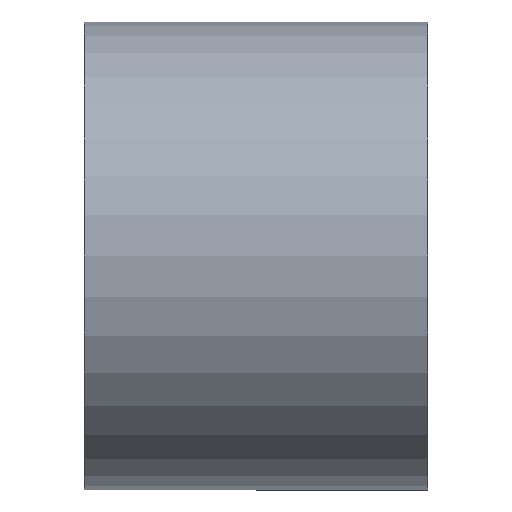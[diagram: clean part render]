
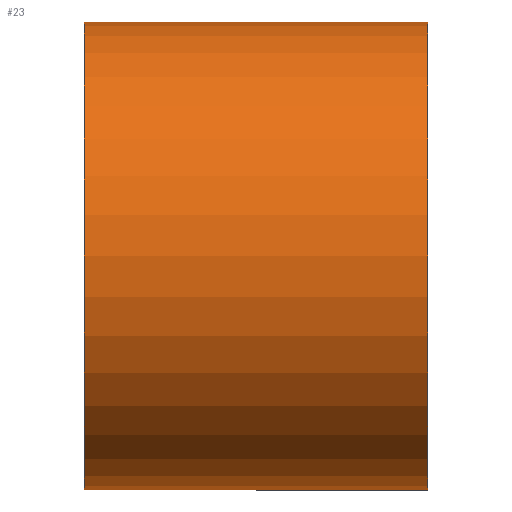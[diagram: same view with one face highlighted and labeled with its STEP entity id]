
A CAD part, front view. The second image highlights one B-rep face of the part: STEP entity #23.
In plain terms, the highlighted cylindrical face has radius 37.5 mm (diameter 75 mm), a partial arc.
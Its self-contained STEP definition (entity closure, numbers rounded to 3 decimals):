
#12 = CARTESIAN_POINT ( 'NONE',  ( 27.5, 0., 37.5 ) ) ;
#23 = ADVANCED_FACE ( 'NONE', ( #332 ), #330, .T. ) ;
#42 = DIRECTION ( 'NONE',  ( -1., 0., 0. ) ) ;
#68 = CIRCLE ( 'NONE', #468, 37.5 ) ;
#73 = VERTEX_POINT ( 'NONE', #572 ) ;
#89 = EDGE_CURVE ( 'NONE', #723, #535, #294, .T. ) ;
#98 = CARTESIAN_POINT ( 'NONE',  ( -27.5, 0., 37.5 ) ) ;
#120 = DIRECTION ( 'NONE',  ( -1., 0., 0. ) ) ;
#128 = CARTESIAN_POINT ( 'NONE',  ( 0., 0., 0. ) ) ;
#137 = ORIENTED_EDGE ( 'NONE', *, *, #611, .F. ) ;
#146 = VECTOR ( 'NONE', #120, 1000. ) ;
#153 = CARTESIAN_POINT ( 'NONE',  ( -27.5, 0., 0. ) ) ;
#209 = VECTOR ( 'NONE', #42, 1000. ) ;
#251 = CIRCLE ( 'NONE', #435, 37.5 ) ;
#259 = EDGE_CURVE ( 'NONE', #698, #535, #251, .T. ) ;
#294 = LINE ( 'NONE', #516, #146 ) ;
#307 = DIRECTION ( 'NONE',  ( -1., 0., 0. ) ) ;
#317 = CARTESIAN_POINT ( 'NONE',  ( 27.5, 0., 0. ) ) ;
#330 = CYLINDRICAL_SURFACE ( 'NONE', #649, 37.5 ) ;
#332 = FACE_OUTER_BOUND ( 'NONE', #644, .T. ) ;
#347 = CARTESIAN_POINT ( 'NONE',  ( -27.5, 0., -37.5 ) ) ;
#364 = ORIENTED_EDGE ( 'NONE', *, *, #508, .T. ) ;
#380 = DIRECTION ( 'NONE',  ( -1., 0., 0. ) ) ;
#422 = DIRECTION ( 'NONE',  ( 0., 0., 1. ) ) ;
#435 = AXIS2_PLACEMENT_3D ( 'NONE', #153, #307, #597 ) ;
#468 = AXIS2_PLACEMENT_3D ( 'NONE', #317, #380, #422 ) ;
#482 = CARTESIAN_POINT ( 'NONE',  ( 0., 0., -37.5 ) ) ;
#508 = EDGE_CURVE ( 'NONE', #73, #723, #68, .T. ) ;
#516 = CARTESIAN_POINT ( 'NONE',  ( 0., 0., 37.5 ) ) ;
#535 = VERTEX_POINT ( 'NONE', #98 ) ;
#569 = DIRECTION ( 'NONE',  ( -1., 0., 0. ) ) ;
#572 = CARTESIAN_POINT ( 'NONE',  ( 27.5, 0., -37.5 ) ) ;
#580 = ORIENTED_EDGE ( 'NONE', *, *, #259, .F. ) ;
#597 = DIRECTION ( 'NONE',  ( 0., 0., 1. ) ) ;
#611 = EDGE_CURVE ( 'NONE', #73, #698, #718, .T. ) ;
#628 = ORIENTED_EDGE ( 'NONE', *, *, #89, .T. ) ;
#644 = EDGE_LOOP ( 'NONE', ( #137, #364, #628, #580 ) ) ;
#649 = AXIS2_PLACEMENT_3D ( 'NONE', #128, #569, #684 ) ;
#684 = DIRECTION ( 'NONE',  ( 0., 0., 1. ) ) ;
#698 = VERTEX_POINT ( 'NONE', #347 ) ;
#718 = LINE ( 'NONE', #482, #209 ) ;
#723 = VERTEX_POINT ( 'NONE', #12 ) ;
